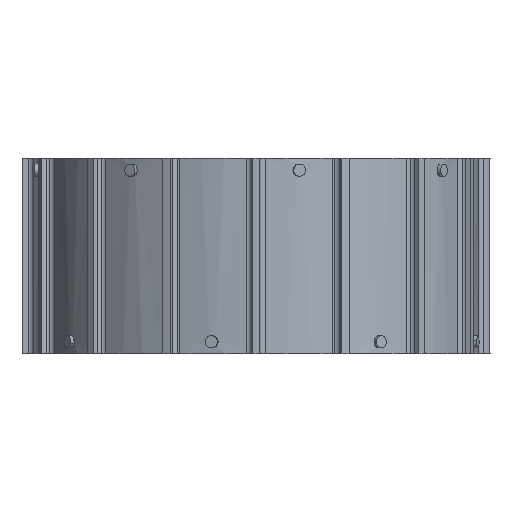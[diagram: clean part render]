
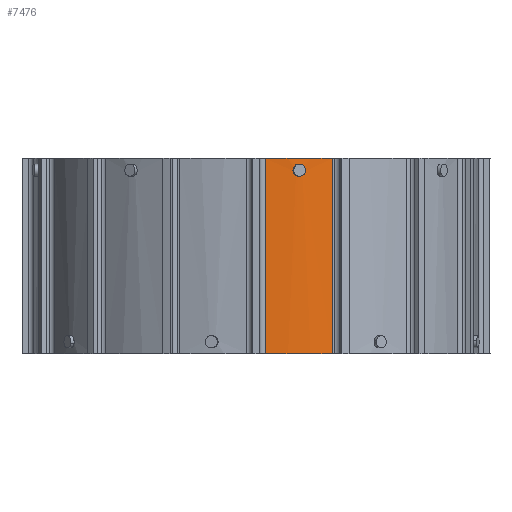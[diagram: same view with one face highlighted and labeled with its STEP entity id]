
A CAD part, left-side view. The second image highlights one B-rep face of the part: STEP entity #7476.
In plain terms, the highlighted cylindrical face has radius 57 mm (diameter 114 mm), a partial arc.
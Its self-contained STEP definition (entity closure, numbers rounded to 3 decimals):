
#72 = CARTESIAN_POINT ( 'NONE',  ( -56.069, -10.261, 46.497 ) ) ;
#231 = VERTEX_POINT ( 'NONE', #17462 ) ;
#396 = VERTEX_POINT ( 'NONE', #13776 ) ;
#464 = CYLINDRICAL_SURFACE ( 'NONE', #13951, 57. ) ;
#465 = ORIENTED_EDGE ( 'NONE', *, *, #13363, .T. ) ;
#532 = CARTESIAN_POINT ( 'NONE',  ( -56.091, -10.138, 47. ) ) ;
#555 = B_SPLINE_CURVE_WITH_KNOTS ( 'NONE', 3,
 ( #1053, #18810, #17369, #5299, #15727, #6765, #11408, #18706, #4243, #2593, #9867, #11308, #5698, #14074, #5599, #17276, #12830, #11596 ),
 .UNSPECIFIED., .F., .F.,
 ( 4, 2, 2, 2, 2, 2, 2, 2, 4 ),
 ( 0., 0., 0.001, 0.001, 0.002, 0.002, 0.002, 0.003, 0.003 ),
 .UNSPECIFIED. ) ;
#707 = AXIS2_PLACEMENT_3D ( 'NONE', #12150, #18016, #14049 ) ;
#1053 = CARTESIAN_POINT ( 'NONE',  ( -55.701, -12.099, 47. ) ) ;
#1277 = EDGE_CURVE ( 'NONE', #396, #6236, #555, .T. ) ;
#1624 = CARTESIAN_POINT ( 'NONE',  ( -56.022, -10.516, 46.201 ) ) ;
#1896 = CARTESIAN_POINT ( 'NONE',  ( -55.931, -10.99, 46. ) ) ;
#1945 = CARTESIAN_POINT ( 'NONE',  ( 0., 0., 0. ) ) ;
#1994 = CARTESIAN_POINT ( 'NONE',  ( -55.701, -12.099, 47. ) ) ;
#2593 = CARTESIAN_POINT ( 'NONE',  ( -55.93, -10.993, 48. ) ) ;
#3352 = CARTESIAN_POINT ( 'NONE',  ( -55.804, -11.613, 46.126 ) ) ;
#3446 = CARTESIAN_POINT ( 'NONE',  ( -55.853, -11.376, 46.026 ) ) ;
#3449 = ORIENTED_EDGE ( 'NONE', *, *, #16832, .T. ) ;
#4243 = CARTESIAN_POINT ( 'NONE',  ( -55.879, -11.248, 48. ) ) ;
#4467 = EDGE_CURVE ( 'NONE', #6236, #396, #12105, .T. ) ;
#4582 = EDGE_CURVE ( 'NONE', #17475, #231, #9068, .T. ) ;
#4662 = DIRECTION ( 'NONE',  ( 0., 0., 1. ) ) ;
#5004 = FACE_OUTER_BOUND ( 'NONE', #15635, .T. ) ;
#5299 = CARTESIAN_POINT ( 'NONE',  ( -55.728, -11.976, 47.504 ) ) ;
#5599 = CARTESIAN_POINT ( 'NONE',  ( -56.069, -10.262, 47.504 ) ) ;
#5698 = CARTESIAN_POINT ( 'NONE',  ( -56.021, -10.518, 47.801 ) ) ;
#5968 = CARTESIAN_POINT ( 'NONE',  ( -56.055, -10.335, 46.386 ) ) ;
#6067 = CARTESIAN_POINT ( 'NONE',  ( 0., 0., 50. ) ) ;
#6236 = VERTEX_POINT ( 'NONE', #532 ) ;
#6547 = CARTESIAN_POINT ( 'NONE',  ( -55.701, -12.099, 46.736 ) ) ;
#6765 = CARTESIAN_POINT ( 'NONE',  ( -55.782, -11.722, 47.799 ) ) ;
#6898 = ORIENTED_EDGE ( 'NONE', *, *, #4467, .F. ) ;
#7448 = CARTESIAN_POINT ( 'NONE',  ( -56.091, -10.138, 47. ) ) ;
#7476 = ADVANCED_FACE ( 'NONE', ( #5004, #13792 ), #464, .T. ) ;
#7534 = CARTESIAN_POINT ( 'NONE',  ( -56.001, -10.625, 46.127 ) ) ;
#7753 = VECTOR ( 'NONE', #13683, 1000. ) ;
#7812 = CARTESIAN_POINT ( 'NONE',  ( -55.782, -11.722, 46.2 ) ) ;
#8660 = CARTESIAN_POINT ( 'NONE',  ( -56.951, -2.372, 50. ) ) ;
#8704 = CIRCLE ( 'NONE', #18840, 57. ) ;
#8985 = CARTESIAN_POINT ( 'NONE',  ( -56.091, -10.138, 46.869 ) ) ;
#9068 = CIRCLE ( 'NONE', #707, 57. ) ;
#9419 = EDGE_LOOP ( 'NONE', ( #9964, #6898 ) ) ;
#9459 = CARTESIAN_POINT ( 'NONE',  ( -53.523, -19.603, -6.001 ) ) ;
#9551 = CARTESIAN_POINT ( 'NONE',  ( -55.956, -10.862, 46.026 ) ) ;
#9570 = VERTEX_POINT ( 'NONE', #11606 ) ;
#9867 = CARTESIAN_POINT ( 'NONE',  ( -55.955, -10.864, 47.974 ) ) ;
#9964 = ORIENTED_EDGE ( 'NONE', *, *, #1277, .F. ) ;
#10201 = CARTESIAN_POINT ( 'NONE',  ( -53.523, -19.603, 0. ) ) ;
#10351 = LINE ( 'NONE', #9459, #10456 ) ;
#10456 = VECTOR ( 'NONE', #16966, 1000. ) ;
#10573 = DIRECTION ( 'NONE',  ( 1., 0., 0. ) ) ;
#10897 = LINE ( 'NONE', #16572, #7753 ) ;
#11090 = CARTESIAN_POINT ( 'NONE',  ( -55.879, -11.249, 46. ) ) ;
#11308 = CARTESIAN_POINT ( 'NONE',  ( -56.001, -10.626, 47.874 ) ) ;
#11408 = CARTESIAN_POINT ( 'NONE',  ( -55.805, -11.613, 47.874 ) ) ;
#11596 = CARTESIAN_POINT ( 'NONE',  ( -56.091, -10.138, 47. ) ) ;
#11606 = CARTESIAN_POINT ( 'NONE',  ( -56.951, -2.372, 0. ) ) ;
#12105 = B_SPLINE_CURVE_WITH_KNOTS ( 'NONE', 3,
 ( #7448, #8985, #13303, #72, #5968, #1624, #7534, #9551, #1896, #11090, #3446, #3352, #7812, #13687, #6547, #1994 ),
 .UNSPECIFIED., .F., .F.,
 ( 4, 2, 2, 2, 2, 2, 2, 4 ),
 ( 0.003, 0.004, 0.004, 0.004, 0.005, 0.005, 0.005, 0.006 ),
 .UNSPECIFIED. ) ;
#12150 = CARTESIAN_POINT ( 'NONE',  ( 0., 0., 50. ) ) ;
#12529 = EDGE_CURVE ( 'NONE', #9570, #17475, #10897, .T. ) ;
#12830 = CARTESIAN_POINT ( 'NONE',  ( -56.091, -10.138, 47.131 ) ) ;
#13303 = CARTESIAN_POINT ( 'NONE',  ( -56.087, -10.163, 46.738 ) ) ;
#13363 = EDGE_CURVE ( 'NONE', #9570, #14552, #8704, .T. ) ;
#13683 = DIRECTION ( 'NONE',  ( 0., 0., 1. ) ) ;
#13687 = CARTESIAN_POINT ( 'NONE',  ( -55.724, -11.993, 46.477 ) ) ;
#13776 = CARTESIAN_POINT ( 'NONE',  ( -55.701, -12.099, 47. ) ) ;
#13792 = FACE_BOUND ( 'NONE', #9419, .T. ) ;
#13951 = AXIS2_PLACEMENT_3D ( 'NONE', #6067, #16499, #17935 ) ;
#14049 = DIRECTION ( 'NONE',  ( 1., 0., 0. ) ) ;
#14074 = CARTESIAN_POINT ( 'NONE',  ( -56.055, -10.334, 47.614 ) ) ;
#14176 = ORIENTED_EDGE ( 'NONE', *, *, #4582, .F. ) ;
#14511 = ORIENTED_EDGE ( 'NONE', *, *, #12529, .F. ) ;
#14552 = VERTEX_POINT ( 'NONE', #10201 ) ;
#15635 = EDGE_LOOP ( 'NONE', ( #3449, #14176, #14511, #465 ) ) ;
#15727 = CARTESIAN_POINT ( 'NONE',  ( -55.743, -11.903, 47.615 ) ) ;
#16499 = DIRECTION ( 'NONE',  ( 0., 0., -1. ) ) ;
#16572 = CARTESIAN_POINT ( 'NONE',  ( -56.951, -2.372, -5.639 ) ) ;
#16832 = EDGE_CURVE ( 'NONE', #14552, #231, #10351, .T. ) ;
#16966 = DIRECTION ( 'NONE',  ( 0., 0., 1. ) ) ;
#17276 = CARTESIAN_POINT ( 'NONE',  ( -56.087, -10.163, 47.261 ) ) ;
#17369 = CARTESIAN_POINT ( 'NONE',  ( -55.707, -12.074, 47.262 ) ) ;
#17462 = CARTESIAN_POINT ( 'NONE',  ( -53.523, -19.603, 50. ) ) ;
#17475 = VERTEX_POINT ( 'NONE', #8660 ) ;
#17935 = DIRECTION ( 'NONE',  ( -1., 0., 0. ) ) ;
#18016 = DIRECTION ( 'NONE',  ( 0., 0., 1. ) ) ;
#18706 = CARTESIAN_POINT ( 'NONE',  ( -55.853, -11.377, 47.974 ) ) ;
#18810 = CARTESIAN_POINT ( 'NONE',  ( -55.701, -12.099, 47.132 ) ) ;
#18840 = AXIS2_PLACEMENT_3D ( 'NONE', #1945, #4662, #10573 ) ;
